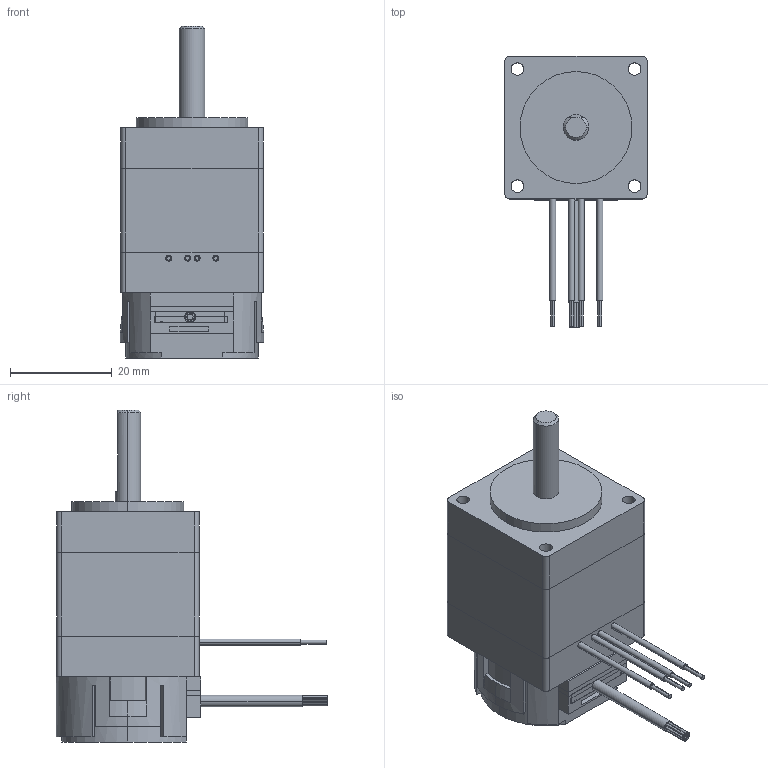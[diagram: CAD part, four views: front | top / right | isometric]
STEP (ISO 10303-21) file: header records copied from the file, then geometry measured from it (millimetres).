
FILE_DESCRIPTION (( 'STEP AP214' ), '1' );
FILE_NAME ('28HS234-1004E-007.STEP', '2023-09-06T00:10:45', ( 'MM' ), ( 'Microsoft' ), 'SwSTEP 2.0', 'SolidWorks 2020', '' );
FILE_SCHEMA (( 'AUTOMOTIVE_DESIGN' ));
Length unit declared in the file: millimetre
Products named in the file (1): 28HS234-1004E-007
Bounding box: 28.2 x 53.4 x 65.25 mm (x, y, z)
Volume: 33054.4 mm3; surface area: 13630 mm2
Topology: 6 solids, 6 shells, 333 faces, 864 edges, 572 vertices
Faces by surface type: plane 232, cylinder 95, cone 6
Entity records: 10752 total; most frequent: CARTESIAN_POINT 1784, DIRECTION 1754, ORIENTED_EDGE 1728, EDGE_CURVE 864, LINE 638, VECTOR 638, VERTEX_POINT 572, AXIS2_PLACEMENT_3D 558
